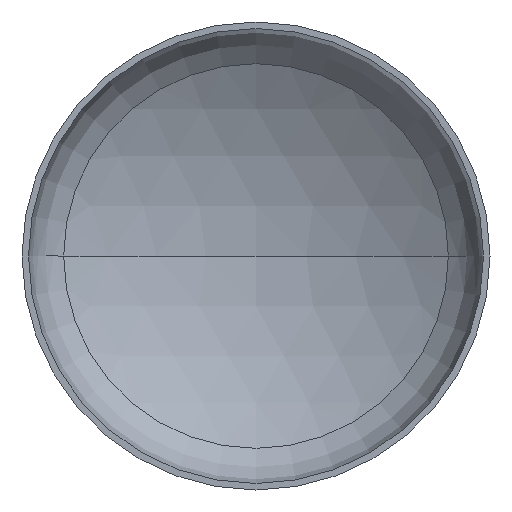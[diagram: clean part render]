
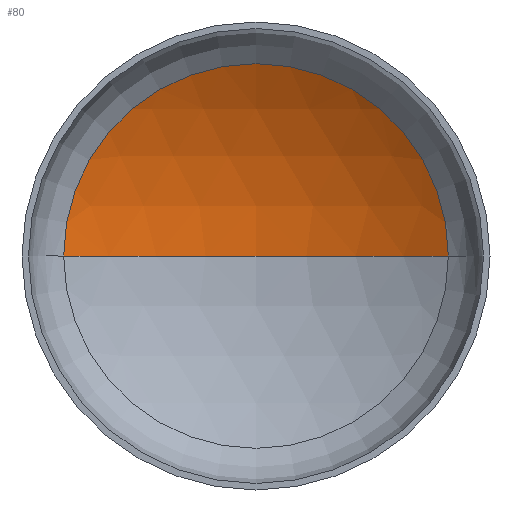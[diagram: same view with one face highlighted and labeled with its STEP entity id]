
A CAD part, front view. The second image highlights one B-rep face of the part: STEP entity #80.
In plain terms, the highlighted spherical face has radius 5600 mm.
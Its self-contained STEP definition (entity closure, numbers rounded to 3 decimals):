
#5 = CARTESIAN_POINT ( 'NONE',  ( -2876.814, 1026.597, 0. ) ) ;
#38 = AXIS2_PLACEMENT_3D ( 'NONE', #130, #131, #202 ) ;
#42 = AXIS2_PLACEMENT_3D ( 'NONE', #161, #152, #148 ) ;
#43 = AXIS2_PLACEMENT_3D ( 'NONE', #243, #239, #238 ) ;
#44 = AXIS2_PLACEMENT_3D ( 'NONE', #293, #327, #246 ) ;
#78 = CIRCLE ( 'NONE', #38, 5600. ) ;
#80 = ADVANCED_FACE ( 'NONE', ( #97 ), #384, .F. ) ;
#84 = EDGE_CURVE ( 'NONE', #207, #381, #180, .T. ) ;
#85 = EDGE_CURVE ( 'NONE', #145, #207, #241, .T. ) ;
#86 = EDGE_CURVE ( 'NONE', #145, #381, #78, .T. ) ;
#97 = FACE_OUTER_BOUND ( 'NONE', #371, .T. ) ;
#130 = CARTESIAN_POINT ( 'NONE',  ( 0., -3777.978, 0. ) ) ;
#131 = DIRECTION ( 'NONE',  ( 0., 0., 1. ) ) ;
#145 = VERTEX_POINT ( 'NONE', #196 ) ;
#148 = DIRECTION ( 'NONE',  ( -1., 0., 0. ) ) ;
#152 = DIRECTION ( 'NONE',  ( 0., 0., -1. ) ) ;
#161 = CARTESIAN_POINT ( 'NONE',  ( 0., -3777.978, 0. ) ) ;
#180 = CIRCLE ( 'NONE', #43, 2876.814 ) ;
#187 = CARTESIAN_POINT ( 'NONE',  ( 2876.814, 1026.597, 0. ) ) ;
#196 = CARTESIAN_POINT ( 'NONE',  ( 0., 1822.022, 0. ) ) ;
#202 = DIRECTION ( 'NONE',  ( 1., 0., 0. ) ) ;
#207 = VERTEX_POINT ( 'NONE', #187 ) ;
#237 = ORIENTED_EDGE ( 'NONE', *, *, #86, .F. ) ;
#238 = DIRECTION ( 'NONE',  ( 1., 0., 0. ) ) ;
#239 = DIRECTION ( 'NONE',  ( 0., -1., 0. ) ) ;
#241 = CIRCLE ( 'NONE', #42, 5600. ) ;
#243 = CARTESIAN_POINT ( 'NONE',  ( 0., 1026.597, 0. ) ) ;
#246 = DIRECTION ( 'NONE',  ( -1., 0., 0. ) ) ;
#293 = CARTESIAN_POINT ( 'NONE',  ( 0., -3777.978, 0. ) ) ;
#327 = DIRECTION ( 'NONE',  ( 0., 0., -1. ) ) ;
#335 = ORIENTED_EDGE ( 'NONE', *, *, #85, .T. ) ;
#371 = EDGE_LOOP ( 'NONE', ( #237, #335, #393 ) ) ;
#381 = VERTEX_POINT ( 'NONE', #5 ) ;
#384 = SPHERICAL_SURFACE ( 'NONE', #44, 5600. ) ;
#393 = ORIENTED_EDGE ( 'NONE', *, *, #84, .T. ) ;
